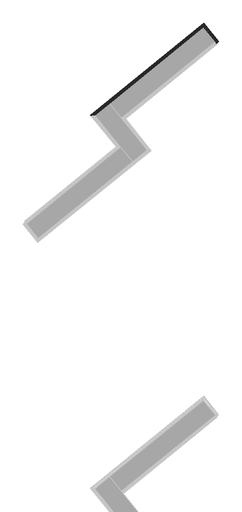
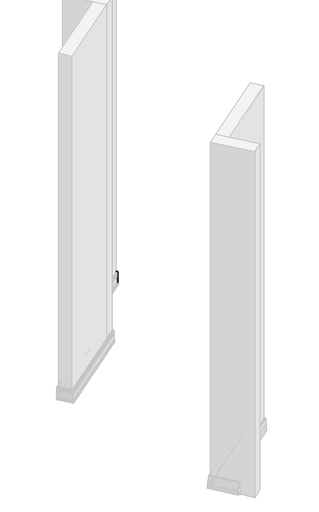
# One storey, part 21 of 21: 1 proxy.
"""IFC4 building model written with IfcOpenShell, lengths in millimetres."""

from ifc_helpers import new_model, si_unit, frame, origin, place, context, project, spatial, polyline, circle_curve, ellipse_curve, element, save
from ifc_brep_helpers import plane_surface, cylinder_surface, revolved_surface, advanced_brep

model = new_model("IFC4")

# Units and contexts
model_context = context("Model", 3, world=origin())
ifc_project = project(units=[si_unit("LENGTHUNIT", "METRE", prefix="MILLI")], contexts=[model_context])

# Site, building, storey
site = spatial("IfcSite", under=ifc_project)
building = spatial("IfcBuilding", under=site)
storey = spatial("IfcBuildingStorey", under=building, Name="Izofleks 2D View", Elevation=0.0)

# Proxy
placement = place(None, origin())
element("IfcBuildingElementProxy", 1, Name="Wall Sweeps", at=placement, inside=storey, context=model_context, shape_type="AdvancedBrep", body=[
    advanced_brep(
    [(9936.4276349, -3157.7194043, 24.6576156), (9936.4276349, -3157.7194043, 28.7655485), (9939.8717944, -3158.0814, 28.7655485), (9940.1414591, -3158.109743, 27.7479135), (9938.7780416, -3157.966442, 27.7479135), (9938.0927892, -3157.8944191, 27.1399945), (9940.841113, -3158.1832795, 18.3), (9938.5310764, -3157.9404849, 18.3), (9938.5310764, -3157.9404849, 16.99999), (9945.5630003, -3158.6795699, 16.99999), (9945.5630003, -3158.6795699, 0.0), (9947.3913925, -3158.8717417, 0.0), (9947.3913925, -3158.8717417, 54.99999), (9945.5630003, -3158.6795699, 53.99999), (9945.5630003, -3158.6795699, 47.8868905), (9941.2871374, -3158.2301586, 47.8868905), (9942.2427849, -3158.3306012, 48.3626585), (9943.4580733, -3158.4583332, 48.3626585), (9944.1540121, -3158.5314793, 48.9497419), (9941.466477, -3158.2490079, 59.2434073), (9940.4624474, -3158.1434802, 59.6555585), (9936.4416807, -3157.7208806, 59.6555585), (9936.5135729, -3157.7284368, 78.3223694), (9936.5135729, -3157.7284368, 87.2257869), (9936.4113202, -3157.7176896, 93.4495757), (9937.3850618, -3157.8200339, 98.368044), (9937.9638208, -3157.880864, 99.5828469), (9939.3514029, -3158.0267047, 101.7076691), (9941.0608063, -3158.2063702, 103.1069743), (9942.56138, -3158.3640869, 103.51129), (9942.56138, -3158.3640869, 101.4584585), (9947.4840122, -3158.8814764, 101.4584585), (9947.4840122, -3158.8814764, 102.9584585), (9944.6710795, -3158.5858252, 102.9584585), (9944.6710795, -3158.5858252, 104.9584585), (9942.2097627, -3158.3271304, 104.9964584), (9939.7484442, -3158.0684354, 104.2814568), (9937.5253722, -3157.8347811, 102.4589271), (9935.9928855, -3157.6737103, 100.1178709), (9935.1219274, -3157.5821689, 98.199675), (9934.7197822, -3157.5399017, 96.8753527), (9934.3068088, -3157.4964965, 93.606275), (9934.4038751, -3157.5066986, 87.1886584), (9934.3194873, -3157.4978291, 78.3276584), (9934.3194873, -3157.4978291, 24.6000924), (9933.8764756, -3157.4512667, 19.4344099), (9930.5434427, -3157.1009508, 12.1684838), (9925.2024362, -3156.5395884, 4.8872371), (9926.8027437, -3156.7077875, 2.9584585), (9929.1999496, -3156.959744, 2.9584585), (9929.1999496, -3156.959744, 0.4656585), (9931.0424205, -3157.1533955, 0.4656585), (9931.0424205, -3157.1533955, 4.2584585), (9929.5173824, -3156.9931075, 4.2584585), (9928.2833381, -3156.8634042, 5.7382041), (9932.4478454, -3157.3011116, 11.523042), (9935.9546857, -3157.6696953, 19.1754831), (10604.9819935, -2766.7799325, 24.6576156), (10605.2433226, -2766.5683124, 19.1754831), (10607.1810347, -2764.9991841, 11.523042), (10609.482142, -2763.1357842, 5.7382041), (10608.8002682, -2763.6879547, 4.2584585), (10607.9576051, -2764.3703298, 4.2584585), (10607.9576051, -2764.3703298, 0.4656585), (10608.9756664, -2763.54592, 0.4656585), (10608.9756664, -2763.54592, 2.9584585), (10610.3002476, -2762.4732953, 2.9584585), (10611.1845008, -2761.7572411, 4.8872371), (10608.2333164, -2764.1470632, 12.1684838), (10606.391642, -2765.6384217, 19.4344099), (10606.146855, -2765.8366463, 24.6000924), (10606.146855, -2765.8366463, 78.3276584), (10606.1002263, -2765.8744055, 87.1886584), (10606.1538605, -2765.8309733, 93.606275), (10605.9256712, -2766.0157574, 96.8753527), (10605.703465, -2766.1956965, 98.199675), (10605.2222153, -2766.5854048, 100.1178709), (10604.3754365, -2767.2711128, 102.4589271), (10603.1470733, -2768.2658216, 104.2814568), (10601.7870666, -2769.3671334, 104.9964584), (10600.4270608, -2770.4684443, 104.9584585), (10600.4270608, -2770.4684443, 102.9584585), (10598.8727689, -2771.7270851, 102.9584585), (10598.8727689, -2771.7270851, 101.4584585), (10601.5927797, -2769.5244638, 101.4584585), (10601.5927797, -2769.5244638, 103.51129), (10602.4219248, -2768.8530353, 103.1069743), (10603.3664593, -2768.0881663, 101.7076691), (10604.1331708, -2767.4672957, 99.5828469), (10604.4529653, -2767.2083312, 98.368044), (10604.9910082, -2766.7726326, 93.4495757), (10604.9345083, -2766.8183853, 87.2257869), (10604.9345083, -2766.8183853, 78.3223694), (10604.9742325, -2766.7862173, 59.6555585), (10602.7525494, -2768.5853008, 59.6555585), (10602.1977707, -2769.0345517, 59.2434073), (10600.7127675, -2770.2370836, 48.9497419), (10601.0973099, -2769.9256873, 48.3626585), (10601.7688201, -2769.3819091, 48.3626585), (10602.2968651, -2768.9543066, 47.8868905), (10599.934228, -2770.8675324, 47.8868905), (10599.934228, -2770.8675324, 53.99999), (10598.9239461, -2771.6856426, 54.99999), (10598.9239461, -2771.6856426, 0.0), (10599.934228, -2770.8675324, 0.0), (10599.934228, -2770.8675324, 16.99999), (10603.8197325, -2767.721113, 16.99999), (10603.8197325, -2767.721113, 18.3), (10602.5433169, -2768.754734, 18.3), (10604.061909, -2767.5250023, 27.1399945), (10603.6832713, -2767.831617, 27.7479135), (10602.9299121, -2768.4416753, 27.7479135), (10603.0789159, -2768.3210144, 28.7655485), (10604.9819935, -2766.7799325, 28.7655485), (10531.4032009, -2675.9176908, 24.6576156), (10531.4529099, -2675.4447416, 19.1754831), (10531.8214937, -2671.9379012, 11.523042), (10532.259201, -2667.773394, 5.7382041), (10532.1294978, -2669.0074382, 4.2584585), (10531.9692098, -2670.5324764, 4.2584585), (10531.9692098, -2670.5324764, 0.4656585), (10532.1628613, -2668.6900055, 0.4656585), (10532.1628613, -2668.6900055, 2.9584585), (10532.4148178, -2666.2927995, 2.9584585), (10532.5830169, -2664.6924921, 4.8872371), (10532.0216545, -2670.0334985, 12.1684838), (10531.6713386, -2673.3665315, 19.4344099), (10531.6247762, -2673.8095432, 24.6000924), (10531.6247762, -2673.8095432, 78.3276584), (10531.6159067, -2673.893931, 87.1886584), (10531.6261088, -2673.7968646, 93.606275), (10531.5827035, -2674.209838, 96.8753527), (10531.5404363, -2674.6119833, 98.199675), (10531.448895, -2675.4829413, 100.1178709), (10531.2878241, -2677.0154281, 102.4589271), (10531.0541698, -2679.2385001, 104.2814568), (10530.7954748, -2681.6998186, 104.9964584), (10530.53678, -2684.1611354, 104.9584585), (10530.53678, -2684.1611354, 102.9584585), (10530.2411289, -2686.9740681, 102.9584585), (10530.2411289, -2686.9740681, 101.4584585), (10530.7585184, -2682.0514358, 101.4584585), (10530.7585184, -2682.0514358, 103.51129), (10530.916235, -2680.5508622, 103.1069743), (10531.0959006, -2678.8414588, 101.7076691), (10531.2417413, -2677.4538767, 99.5828469), (10531.3025713, -2676.8751177, 98.368044), (10531.4049157, -2675.9013761, 93.4495757), (10531.3941685, -2676.0036288, 87.2257869), (10531.3941685, -2676.0036288, 78.3223694), (10531.4017247, -2675.9317366, 59.6555585), (10530.9791251, -2679.9525032, 59.6555585), (10530.8735973, -2680.9565328, 59.2434073), (10530.591126, -2683.6440679, 48.9497419), (10530.6642721, -2682.9481292, 48.3626585), (10530.7920041, -2681.7328407, 48.3626585), (10530.8924467, -2680.7771933, 47.8868905), (10530.4430354, -2685.0530562, 47.8868905), (10530.4430354, -2685.0530562, 53.99999), (10530.2508636, -2686.8814484, 54.99999), (10530.2508636, -2686.8814484, 0.0), (10593.1829027, -2764.5960445, 0.0), (10530.4430354, -2685.0530562, 0.0), (10530.4430354, -2685.0530562, 16.99999), (10531.1821203, -2678.0211323, 16.99999), (10531.1821203, -2678.0211323, 18.3), (10530.9393257, -2680.3311689, 18.3), (10531.2281862, -2677.5828451, 27.1399945), (10531.1561633, -2678.2680975, 27.7479135), (10531.0128623, -2679.631515, 27.7479135), (10531.0412052, -2679.3618502, 28.7655485), (10531.4032009, -2675.9176908, 28.7655485), (10025.1059886, -3095.9397026, 0.0)],
    [
        (0, 1),
        (1, 2),
        (2, 3),
        (3, 4),
        (4, 5, ellipse_curve(frame((9938.7794481, -3157.9665898, 27.2479135), z_axis=(-0.10452846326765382, -0.9945218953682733, 0.0), x_axis=(0.9945218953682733, -0.10452846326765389, 0.0)), 0.7071082, 0.500001)),
        (5, 6),
        (6, 7),
        (7, 8, ellipse_curve(frame((9938.7013325, -3157.9583796, 17.649995), z_axis=(-0.10452846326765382, -0.9945218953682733, 0.0), x_axis=(0.9945218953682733, -0.10452846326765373, 0.0)), 0.935051, 0.6611809)),
        (8, 9),
        (9, 10),
        (10, 11),
        (11, 12),
        (12, 13, ellipse_curve(frame((9947.0409144, -3158.8349049, 53.9789482), z_axis=(-0.10452846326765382, -0.9945218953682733, 0.0), x_axis=(0.9945218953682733, -0.10452846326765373, 0.0)), 1.4863528, 1.0510102)),
        (13, 14),
        (14, 15),
        (15, 16),
        (16, 17),
        (17, 18, ellipse_curve(frame((9943.4615184, -3158.4586953, 48.8626585), z_axis=(-0.10452846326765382, -0.9945218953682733, 0.0), x_axis=(0.9945218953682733, -0.10452846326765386, 0.0)), 0.7071153, 0.500006)),
        (18, 19),
        (19, 20, ellipse_curve(frame((9940.7167744, -3158.170211, 59.1444576), z_axis=(-0.10452846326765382, -0.9945218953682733, 0.0), x_axis=(0.9945218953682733, -0.10452846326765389, 0.0)), 0.7667105, 0.5421462)),
        (20, 21),
        (21, 22),
        (22, 23),
        (23, 24, ellipse_curve(frame((10051.5653352, -3169.8208642, 91.2936585), z_axis=(0.10452846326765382, 0.9945218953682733, 0.0), x_axis=(-0.9945218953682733, 0.10452846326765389, 0.0)), 115.8284506, 81.9030829)),
        (24, 25, ellipse_curve(frame((9960.0125167, -3160.1982753, 93.5954863), z_axis=(0.10452846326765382, 0.9945218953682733, 0.0), x_axis=(-0.9945218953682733, 0.10452846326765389, 0.0)), 23.7320956, 16.7811257)),
        (25, 26, ellipse_curve(frame((9977.7618917, -3162.0638098, 89.3206815), z_axis=(0.10452846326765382, 0.9945218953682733, 0.0), x_axis=(-0.9945218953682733, 0.10452846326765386, 0.0)), 42.5676821, 30.0998967)),
        (26, 27, ellipse_curve(frame((9960.0125167, -3160.1982753, 93.5954863), z_axis=(0.10452846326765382, 0.9945218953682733, 0.0), x_axis=(-0.9945218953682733, 0.10452846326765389, 0.0)), 23.7320956, 16.7811257)),
        (27, 28, ellipse_curve(frame((9945.30609, -3158.6525675, 99.2578162), z_axis=(0.10452846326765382, 0.9945218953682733, 0.0), x_axis=(-0.9945218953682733, 0.10452846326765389, 0.0)), 6.9176268, 4.8915008)),
        (28, 29, ellipse_curve(frame((9942.6789396, -3158.3764429, 101.680883), z_axis=(0.10452846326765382, 0.9945218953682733, 0.0), x_axis=(-0.9945218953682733, 0.10452846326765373, 0.0)), 2.5912839, 1.8323144)),
        (29, 30),
        (30, 31),
        (31, 32),
        (32, 33),
        (33, 34),
        (34, 35, ellipse_curve(frame((9943.1721651, -3158.428283, 96.1938046), z_axis=(-0.10452846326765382, -0.9945218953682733, 0.0), x_axis=(0.9945218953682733, -0.10452846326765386, 0.0)), 12.4863877, 8.8292094)),
        (35, 36, ellipse_curve(frame((9942.6789395, -3158.3764429, 101.680883), z_axis=(-0.10452846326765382, -0.9945218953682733, 0.0), x_axis=(0.9945218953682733, -0.10452846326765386, 0.0)), 4.7126043, 3.3323144)),
        (36, 37, ellipse_curve(frame((9945.30609, -3158.6525675, 99.2578162), z_axis=(-0.10452846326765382, -0.9945218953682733, 0.0), x_axis=(0.9945218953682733, -0.10452846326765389, 0.0)), 9.0389471, 6.3915008)),
        (37, 38, ellipse_curve(frame((9959.9411198, -3160.1907712, 93.6169585), z_axis=(-0.10452846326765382, -0.9945218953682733, 0.0), x_axis=(0.9945218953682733, -0.10452846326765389, 0.0)), 25.7755165, 18.2260425)),
        (38, 39, ellipse_curve(frame((9958.7313407, -3160.0636182, 93.8395846), z_axis=(-0.10452846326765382, -0.9945218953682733, 0.0), x_axis=(0.9945218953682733, -0.10452846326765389, 0.0)), 24.5271842, 17.3433382)),
        (39, 40),
        (40, 41, ellipse_curve(frame((9959.9411198, -3160.1907712, 93.6169585), z_axis=(-0.10452846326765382, -0.9945218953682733, 0.0), x_axis=(0.9945218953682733, -0.10452846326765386, 0.0)), 25.7755165, 18.2260425)),
        (41, 42, ellipse_curve(frame((10051.5653352, -3169.8208642, 91.2936584), z_axis=(-0.10452846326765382, -0.9945218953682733, 0.0), x_axis=(0.9945218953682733, -0.10452846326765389, 0.0)), 117.9497709, 83.4030829)),
        (42, 43),
        (43, 44),
        (44, 45, ellipse_curve(frame((9897.6201541, -3153.6405737, 23.5987093), z_axis=(0.10452846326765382, 0.9945218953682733, 0.0), x_axis=(-0.9945218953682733, 0.10452846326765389, 0.0)), 36.9286476, 26.1124971)),
        (45, 46, ellipse_curve(frame((9892.6755416, -3153.120874, 24.9692502), z_axis=(0.10452846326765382, 0.9945218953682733, 0.0), x_axis=(-0.9945218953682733, 0.10452846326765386, 0.0)), 42.1608608, 29.8122306)),
        (46, 47, ellipse_curve(frame((9781.2893467, -3141.4137132, 62.8834263), z_axis=(0.10452846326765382, 0.9945218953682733, 0.0), x_axis=(-0.9945218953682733, 0.10452846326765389, 0.0)), 166.3336568, 117.6156566)),
        (47, 48, ellipse_curve(frame((9926.8027437, -3156.7077875, 4.2584585), z_axis=(-0.10452846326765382, -0.9945218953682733, 0.0), x_axis=(0.9945218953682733, -0.10452846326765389, 0.0)), 1.8384776, 1.3)),
        (48, 49),
        (49, 50),
        (50, 51),
        (51, 52),
        (52, 53),
        (53, 54, ellipse_curve(frame((9929.5173824, -3156.9931075, 5.2584585), z_axis=(0.10452846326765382, 0.9945218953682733, 0.0), x_axis=(-0.9945218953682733, 0.10452846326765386, 0.0)), 1.4142136, 1.0)),
        (54, 55, ellipse_curve(frame((9781.2893467, -3141.4137132, 62.8834263), z_axis=(-0.10452846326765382, -0.9945218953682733, 0.0), x_axis=(0.9945218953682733, -0.10452846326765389, 0.0)), 168.4549771, 119.1156566)),
        (55, 56, ellipse_curve(frame((9892.6755416, -3153.120874, 24.9692502), z_axis=(-0.10452846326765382, -0.9945218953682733, 0.0), x_axis=(0.9945218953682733, -0.10452846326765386, 0.0)), 44.2821811, 31.3122306)),
        (56, 0, ellipse_curve(frame((9897.6201541, -3153.6405737, 23.5987093), z_axis=(-0.10452846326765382, -0.9945218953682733, 0.0), x_axis=(0.9945218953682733, -0.10452846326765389, 0.0)), 39.0499679, 27.6124971)),
        (57, 58, circle_curve(frame((10626.4251492, -2749.4156074, 23.5987093), z_axis=(0.6293203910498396, -0.7771459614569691, 0.0), x_axis=(-0.7765743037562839, -0.6288574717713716, 0.0383488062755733)), 27.6124971)),
        (58, 59, circle_curve(frame((10629.1573054, -2747.203151, 24.9692502), z_axis=(0.6293203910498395, -0.7771459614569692, 0.0), x_axis=(-0.7636350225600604, -0.6183794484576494, -0.18565669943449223)), 31.3122306)),
        (59, 60, circle_curve(frame((10690.7039832, -2697.363634, 62.8834263), z_axis=(0.6293203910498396, -0.7771459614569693, 0.0), x_axis=(-0.7011878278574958, -0.5678107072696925, -0.43119210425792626)), 119.1156566)),
        (60, 61, circle_curve(frame((10608.8002682, -2763.6879547, 5.2584585), z_axis=(-0.6293203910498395, 0.7771459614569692, 0.0), x_axis=(0.6818737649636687, 0.5521704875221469, 0.4797456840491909)), 1.0)),
        (61, 62),
        (62, 63),
        (63, 64),
        (64, 65),
        (65, 66),
        (66, 67, circle_curve(frame((10610.3002476, -2762.4732953, 4.2584585), z_axis=(0.6293203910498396, -0.7771459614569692, 0.0), x_axis=(-1.8485803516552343e-11, -1.4969508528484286e-11, -1.0)), 1.3)),
        (67, 68, circle_curve(frame((10690.7039832, -2697.363634, 62.8834263), z_axis=(-0.6293203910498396, 0.7771459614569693, 0.0), x_axis=(-0.6760960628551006, -0.5474917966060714, -0.49309922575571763)), 117.6156566)),
        (68, 69, circle_curve(frame((10629.1573054, -2747.203151, 24.9692502), z_axis=(-0.6293203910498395, 0.7771459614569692, 0.0), x_axis=(-0.7018592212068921, -0.568354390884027, -0.42937969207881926)), 29.8122306)),
        (69, 70, circle_curve(frame((10626.4251492, -2749.4156074, 23.5987093), z_axis=(-0.6293203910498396, 0.7771459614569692, 0.0), x_axis=(-0.7671999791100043, -0.621266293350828, -0.159475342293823)), 26.1124971)),
        (70, 71),
        (71, 72),
        (72, 73, circle_curve(frame((10541.3624134, -2818.2980527, 91.2936584), z_axis=(0.6293203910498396, -0.777145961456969, 0.0), x_axis=(0.7762040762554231, 0.628557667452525, -0.04921880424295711)), 83.4030829)),
        (73, 74, circle_curve(frame((10591.9895676, -2777.3009916, 93.6169585), z_axis=(0.6293203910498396, -0.7771459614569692, 0.0), x_axis=(0.7771458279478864, 0.629320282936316, -0.0005861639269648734)), 18.2260425)),
        (74, 75),
        (75, 76, circle_curve(frame((10592.6580337, -2776.7596784, 93.8395846), z_axis=(0.6293203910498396, -0.7771459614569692, 0.0), x_axis=(0.7635664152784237, 0.6183238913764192, 0.18612333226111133)), 17.3433382)),
        (76, 77, circle_curve(frame((10591.9895676, -2777.3009916, 93.6169585), z_axis=(0.6293203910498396, -0.7771459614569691, 0.0), x_axis=(0.7260296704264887, 0.5879272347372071, 0.3566826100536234)), 18.2260425)),
        (77, 78, circle_curve(frame((10600.0761844, -2770.7525784, 99.2578162), z_axis=(0.6293203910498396, -0.7771459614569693, 0.0), x_axis=(0.6726514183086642, 0.5447023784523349, 0.5008386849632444)), 6.3915008)),
        (78, 79, circle_curve(frame((10601.5278219, -2769.5770655, 101.680883), z_axis=(0.6293203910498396, -0.7771459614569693, 0.0), x_axis=(0.4859239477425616, 0.3934934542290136, 0.7804106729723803)), 3.3323144)),
        (79, 80, circle_curve(frame((10601.2552891, -2769.7977583, 96.1938046), z_axis=(0.6293203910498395, -0.7771459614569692, 0.0), x_axis=(0.0602293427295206, 0.04877276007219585, 0.9969922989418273)), 8.8292094)),
        (80, 81),
        (81, 82),
        (82, 83),
        (83, 84),
        (84, 85),
        (85, 86, circle_curve(frame((10601.5278219, -2769.5770656, 101.680883), z_axis=(-0.6293203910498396, 0.777145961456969, 0.0), x_axis=(0.035451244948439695, 0.028707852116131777, 0.9989589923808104)), 1.8323144)),
        (86, 87, circle_curve(frame((10600.0761844, -2770.7525784, 99.2578162), z_axis=(-0.6293203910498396, 0.7771459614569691, 0.0), x_axis=(0.4804644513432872, 0.3890724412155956, 0.7859876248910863)), 4.8915008)),
        (87, 88, circle_curve(frame((10591.9501171, -2777.3329379, 93.5954863), z_axis=(-0.6293203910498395, 0.7771459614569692, 0.0), x_axis=(0.6803084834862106, 0.5509029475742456, 0.48341111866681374)), 16.7811257)),
        (88, 89, circle_curve(frame((10582.1426624, -2785.2748582, 89.3206815), z_axis=(-0.6293203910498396, 0.7771459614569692, 0.0), x_axis=(0.7305841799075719, 0.5916154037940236, 0.34093690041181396)), 30.0998967)),
        (89, 90, circle_curve(frame((10591.9501171, -2777.3329379, 93.5954863), z_axis=(-0.6293203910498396, 0.7771459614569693, 0.0), x_axis=(0.7450541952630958, 0.6033329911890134, 0.28440033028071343)), 16.7811257)),
        (90, 91, circle_curve(frame((10541.3624134, -2818.2980527, 91.2936585), z_axis=(-0.6293203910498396, 0.7771459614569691, 0.0), x_axis=(0.776876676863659, 0.6291023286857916, 0.026322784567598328)), 81.9030829)),
        (91, 92),
        (92, 93),
        (93, 94),
        (94, 95, circle_curve(frame((10602.6120204, -2768.6990989, 59.1444576), z_axis=(0.6293203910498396, -0.7771459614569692, 0.0), x_axis=(0.7771459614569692, 0.6293203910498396, 0.0)), 0.5421462)),
        (95, 96),
        (96, 97, circle_curve(frame((10601.0954063, -2769.9272288, 48.8626585), z_axis=(0.6293203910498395, -0.7771459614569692, 0.0), x_axis=(-0.7652684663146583, -0.6197021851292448, 0.17416479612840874)), 0.500006)),
        (97, 98),
        (98, 99),
        (99, 100),
        (100, 101),
        (101, 102, circle_curve(frame((10599.1176035, -2771.528822, 53.9789482), z_axis=(0.6293203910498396, -0.777145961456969, 0.0), x_axis=(0.7769901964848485, 0.6291942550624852, 0.02002058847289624)), 1.0510102)),
        (102, 103),
        (103, 104),
        (104, 105),
        (105, 106),
        (106, 107, circle_curve(frame((10603.7256571, -2767.7972937, 17.649995), z_axis=(0.6293203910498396, -0.777145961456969, 0.0), x_axis=(0.14228387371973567, 0.11521920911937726, -0.9830970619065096)), 0.6611809)),
        (107, 108),
        (108, 109),
        (109, 110, circle_curve(frame((10603.6824942, -2767.8322463, 27.2479135), z_axis=(0.6293203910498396, -0.7771459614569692, 0.0), x_axis=(0.7589775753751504, 0.6146079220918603, -0.2149654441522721)), 0.500001)),
        (110, 111),
        (111, 112),
        (112, 113),
        (113, 57),
        (57, 114),
        (114, 115, ellipse_curve(frame((10535.4820315, -2637.11021, 23.5987093), z_axis=(0.9945218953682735, -0.10452846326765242, 0.0), x_axis=(-0.10452846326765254, -0.9945218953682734, 0.0)), 39.0499679, 27.6124971)),
        (115, 58),
        (115, 116, ellipse_curve(frame((10536.0017313, -2632.1655975, 24.9692502), z_axis=(0.9945218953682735, -0.1045284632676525, 0.0), x_axis=(-0.10452846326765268, -0.9945218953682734, 0.0)), 44.2821811, 31.3122306)),
        (116, 59),
        (116, 117, ellipse_curve(frame((10547.7088921, -2520.7794025, 62.8834263), z_axis=(0.9945218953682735, -0.1045284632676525, 0.0), x_axis=(-0.10452846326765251, -0.9945218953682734, 0.0)), 168.4549771, 119.1156566)),
        (117, 60),
        (117, 118, ellipse_curve(frame((10532.1294978, -2669.0074382, 5.2584585), z_axis=(-0.9945218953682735, 0.10452846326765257, 0.0), x_axis=(0.1045284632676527, 0.9945218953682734, 0.0)), 1.4142136, 1.0)),
        (118, 61),
        (118, 119),
        (119, 62),
        (119, 120),
        (120, 63),
        (120, 121),
        (121, 64),
        (121, 122),
        (122, 65),
        (122, 123),
        (123, 66),
        (123, 124, ellipse_curve(frame((10532.4148178, -2666.2927995, 4.2584585), z_axis=(0.9945218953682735, -0.10452846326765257, 0.0), x_axis=(-0.1045284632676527, -0.9945218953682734, 0.0)), 1.8384776, 1.3)),
        (124, 67),
        (124, 125, ellipse_curve(frame((10547.7088921, -2520.7794025, 62.8834263), z_axis=(-0.9945218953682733, 0.10452846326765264, 0.0), x_axis=(0.10452846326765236, 0.9945218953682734, 0.0)), 166.3336568, 117.6156566)),
        (125, 68),
        (125, 126, ellipse_curve(frame((10536.0017313, -2632.1655975, 24.9692502), z_axis=(-0.9945218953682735, 0.1045284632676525, 0.0), x_axis=(0.10452846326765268, 0.9945218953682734, 0.0)), 42.1608608, 29.8122306)),
        (126, 69),
        (126, 127, ellipse_curve(frame((10535.4820315, -2637.11021, 23.5987093), z_axis=(-0.9945218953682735, 0.1045284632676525, 0.0), x_axis=(0.10452846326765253, 0.9945218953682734, 0.0)), 36.9286476, 26.1124971)),
        (127, 70),
        (127, 128),
        (128, 71),
        (128, 129),
        (129, 72),
        (129, 130, ellipse_curve(frame((10519.301741, -2791.0553911, 91.2936584), z_axis=(0.9945218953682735, -0.10452846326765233, 0.0), x_axis=(-0.10452846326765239, -0.9945218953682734, 0.0)), 117.9497709, 83.4030829)),
        (130, 73),
        (130, 131, ellipse_curve(frame((10528.9318341, -2699.4311757, 93.6169585), z_axis=(0.9945218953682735, -0.10452846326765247, 0.0), x_axis=(-0.10452846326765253, -0.9945218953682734, 0.0)), 25.7755165, 18.2260425)),
        (131, 74),
        (131, 132),
        (132, 75),
        (132, 133, ellipse_curve(frame((10529.058987, -2698.2213966, 93.8395846), z_axis=(0.9945218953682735, -0.10452846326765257, 0.0), x_axis=(-0.1045284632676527, -0.9945218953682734, 0.0)), 24.5271842, 17.3433382)),
        (133, 76),
        (133, 134, ellipse_curve(frame((10528.9318341, -2699.4311757, 93.6169585), z_axis=(0.9945218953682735, -0.10452846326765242, 0.0), x_axis=(-0.10452846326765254, -0.9945218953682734, 0.0)), 25.7755165, 18.2260425)),
        (134, 77),
        (134, 135, ellipse_curve(frame((10530.4700377, -2684.7961459, 99.2578162), z_axis=(0.9945218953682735, -0.10452846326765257, 0.0), x_axis=(-0.10452846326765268, -0.9945218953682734, 0.0)), 9.0389471, 6.3915008)),
        (135, 78),
        (135, 136, ellipse_curve(frame((10530.7461624, -2682.1689954, 101.680883), z_axis=(0.9945218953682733, -0.10452846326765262, 0.0), x_axis=(-0.10452846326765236, -0.9945218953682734, 0.0)), 4.7126043, 3.3323144)),
        (136, 79),
        (136, 137, ellipse_curve(frame((10530.6943223, -2682.662221, 96.1938046), z_axis=(0.9945218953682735, -0.10452846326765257, 0.0), x_axis=(-0.1045284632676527, -0.9945218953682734, 0.0)), 12.4863877, 8.8292094)),
        (137, 80),
        (137, 138),
        (138, 81),
        (138, 139),
        (139, 82),
        (139, 140),
        (140, 83),
        (140, 141),
        (141, 84),
        (141, 142),
        (142, 85),
        (142, 143, ellipse_curve(frame((10530.7461624, -2682.1689955, 101.680883), z_axis=(-0.9945218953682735, 0.10452846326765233, 0.0), x_axis=(0.10452846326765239, 0.9945218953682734, 0.0)), 2.5912839, 1.8323144)),
        (143, 86),
        (143, 144, ellipse_curve(frame((10530.4700377, -2684.7961459, 99.2578162), z_axis=(-0.9945218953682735, 0.10452846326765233, 0.0), x_axis=(0.10452846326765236, 0.9945218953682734, 0.0)), 6.9176268, 4.8915008)),
        (144, 87),
        (144, 145, ellipse_curve(frame((10528.92433, -2699.5025726, 93.5954863), z_axis=(-0.9945218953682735, 0.1045284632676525, 0.0), x_axis=(0.10452846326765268, 0.9945218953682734, 0.0)), 23.7320956, 16.7811257)),
        (145, 88),
        (145, 146, ellipse_curve(frame((10527.0587955, -2717.2519475, 89.3206815), z_axis=(-0.9945218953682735, 0.10452846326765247, 0.0), x_axis=(0.10452846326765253, 0.9945218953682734, 0.0)), 42.5676821, 30.0998967)),
        (146, 89),
        (146, 147, ellipse_curve(frame((10528.92433, -2699.5025726, 93.5954863), z_axis=(-0.9945218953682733, 0.10452846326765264, 0.0), x_axis=(0.10452846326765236, 0.9945218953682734, 0.0)), 23.7320956, 16.7811257)),
        (147, 90),
        (147, 148, ellipse_curve(frame((10519.301741, -2791.0553911, 91.2936585), z_axis=(-0.9945218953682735, 0.10452846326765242, 0.0), x_axis=(0.10452846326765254, 0.9945218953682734, 0.0)), 115.8284506, 81.9030829)),
        (148, 91),
        (148, 149),
        (149, 92),
        (149, 150),
        (150, 93),
        (150, 151),
        (151, 94),
        (151, 152, ellipse_curve(frame((10530.9523942, -2680.2068303, 59.1444576), z_axis=(0.9945218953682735, -0.10452846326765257, 0.0), x_axis=(-0.1045284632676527, -0.9945218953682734, 0.0)), 0.7667105, 0.5421462)),
        (152, 95),
        (152, 153),
        (153, 96),
        (153, 154, ellipse_curve(frame((10530.66391, -2682.9515743, 48.8626585), z_axis=(0.9945218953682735, -0.1045284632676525, 0.0), x_axis=(-0.10452846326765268, -0.9945218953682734, 0.0)), 0.7071153, 0.500006)),
        (154, 97),
        (154, 155),
        (155, 98),
        (155, 156),
        (156, 99),
        (156, 157),
        (157, 100),
        (157, 158),
        (158, 101),
        (158, 159, ellipse_curve(frame((10530.2877003, -2686.5309703, 53.9789482), z_axis=(0.9945218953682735, -0.10452846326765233, 0.0), x_axis=(-0.10452846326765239, -0.9945218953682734, 0.0)), 1.4863528, 1.0510102)),
        (159, 102),
        (159, 160),
        (160, 161),
        (161, 103),
        (160, 162),
        (162, 104),
        (162, 163),
        (163, 105),
        (163, 164),
        (164, 106),
        (164, 165, ellipse_curve(frame((10531.1642257, -2678.1913884, 17.649995), z_axis=(0.9945218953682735, -0.10452846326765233, 0.0), x_axis=(-0.10452846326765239, -0.9945218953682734, 0.0)), 0.935051, 0.6611809)),
        (165, 107),
        (165, 166),
        (166, 108),
        (166, 167),
        (167, 109),
        (167, 168, ellipse_curve(frame((10531.1560154, -2678.2695039, 27.2479135), z_axis=(0.9945218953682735, -0.1045284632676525, 0.0), x_axis=(-0.10452846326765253, -0.9945218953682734, 0.0)), 0.7071082, 0.500001)),
        (168, 110),
        (168, 169),
        (169, 111),
        (169, 170),
        (170, 112),
        (170, 171),
        (171, 113),
        (171, 114),
        (114, 0),
        (56, 115),
        (55, 116),
        (54, 117),
        (53, 118),
        (52, 119),
        (51, 120),
        (50, 121),
        (49, 122),
        (48, 123),
        (47, 124),
        (46, 125),
        (45, 126),
        (44, 127),
        (43, 128),
        (42, 129),
        (41, 130),
        (40, 131),
        (39, 132),
        (38, 133),
        (37, 134),
        (36, 135),
        (35, 136),
        (34, 137),
        (33, 138),
        (32, 139),
        (31, 140),
        (30, 141),
        (29, 142),
        (28, 143),
        (27, 144),
        (26, 145),
        (25, 146),
        (24, 147),
        (23, 148),
        (22, 149),
        (21, 150),
        (20, 151),
        (19, 152),
        (18, 153),
        (17, 154),
        (16, 155),
        (15, 156),
        (14, 157),
        (13, 158),
        (12, 159),
        (11, 172),
        (172, 160),
        (10, 162),
        (9, 163),
        (8, 164),
        (7, 165),
        (6, 166),
        (5, 167),
        (4, 168),
        (3, 169),
        (2, 170),
        (1, 171),
    ],
    [
        plane_surface(frame((9947.3913925, -3158.8717417, -304.8), z_axis=(-0.10452846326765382, -0.9945218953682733, 0.0), x_axis=(0.9945218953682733, -0.10452846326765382, 0.0))),
        plane_surface(frame((10598.9239461, -2771.6856426, 0.0), z_axis=(0.6293203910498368, -0.7771459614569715, 0.0), x_axis=(-0.7771459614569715, -0.6293203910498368, 0.0))),
        cylinder_surface(frame((10626.4251492, -2749.4156074, 23.5987093), z_axis=(0.6293203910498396, -0.7771459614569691, 0.0), x_axis=(-0.7765743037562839, -0.6288574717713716, 0.0383488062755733)), 27.6124971),
        cylinder_surface(frame((10629.1573054, -2747.203151, 24.9692502), z_axis=(0.6293203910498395, -0.7771459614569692, 0.0), x_axis=(-0.7636350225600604, -0.6183794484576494, -0.18565669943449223)), 31.3122306),
        cylinder_surface(frame((10690.7039832, -2697.363634, 62.8834263), z_axis=(0.6293203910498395, -0.7771459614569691, 0.0), x_axis=(-0.7011878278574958, -0.5678107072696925, -0.43119210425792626)), 119.1156566),
        revolved_surface(polyline([(10532.182051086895, -2667.678121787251, 5.738204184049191), (10609.482141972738, -2763.1357842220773, 5.738204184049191)]), (10608.8002682, -2763.6879547, 5.2584585), (-0.6293203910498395, 0.7771459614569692, 0.0)),
        plane_surface(frame((10608.8002682, -2763.6879547, 4.2584585), z_axis=(0.0, 0.0, 1.0), x_axis=(-0.629320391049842, 0.7771459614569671, 0.0))),
        plane_surface(frame((10607.9576051, -2764.3703298, 4.2584585), z_axis=(-0.7771459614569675, -0.6293203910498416, 0.0), x_axis=(-0.6293203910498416, 0.7771459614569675, 0.0))),
        plane_surface(frame((10607.9576051, -2764.3703298, 0.4656585), z_axis=(0.0, 0.0, -1.0), x_axis=(-0.6293203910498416, 0.7771459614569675, 0.0))),
        plane_surface(frame((10608.9756664, -2763.54592, 0.4656585), z_axis=(0.777145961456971, 0.6293203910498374, 0.0), x_axis=(-0.6293203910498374, 0.777145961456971, 0.0))),
        plane_surface(frame((10608.9756664, -2763.54592, 2.9584585), z_axis=(0.0, 0.0, -1.0000000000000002), x_axis=(-0.6293203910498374, 0.777145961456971, 0.0))),
        cylinder_surface(frame((10610.3002476, -2762.4732953, 4.2584585), z_axis=(0.6293203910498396, -0.7771459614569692, 0.0), x_axis=(-1.8485803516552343e-11, -1.4969508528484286e-11, -1.0)), 1.3),
        revolved_surface(polyline([(10394.171478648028, -2493.7684771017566, 4.887237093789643), (10611.184500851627, -2761.7572411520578, 4.887237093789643)]), (10690.7039832, -2697.363634, 62.8834263), (-0.6293203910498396, 0.7771459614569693, 0.0)),
        revolved_surface(polyline([(10496.316297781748, -2625.941055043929, 12.168483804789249), (10608.233316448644, -2764.1470631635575, 12.168483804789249)]), (10629.1573054, -2747.203151, 24.9692502), (-0.6293203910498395, 0.7771459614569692, 0.0)),
        revolved_surface(polyline([(10499.01539738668, -2633.0398025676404, 19.434409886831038), (10606.3916419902, -2765.638421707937, 19.434409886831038)]), (10626.4251492, -2749.4156074, 23.5987093), (-0.6293203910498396, 0.7771459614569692, 0.0)),
        plane_surface(frame((10606.146855, -2765.8366463, 24.6000924), z_axis=(0.7771459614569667, 0.6293203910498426, 0.0), x_axis=(-0.6293203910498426, 0.7771459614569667, 0.0))),
        plane_surface(frame((10606.146855, -2765.8366463, 78.3276584), z_axis=(0.7771281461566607, 0.6293059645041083, 0.006771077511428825), x_axis=(-0.6293203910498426, 0.7771459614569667, 0.0))),
        cylinder_surface(frame((10541.3624134, -2818.2980527, 91.2936584), z_axis=(0.6293203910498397, -0.7771459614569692, 0.0), x_axis=(0.7762040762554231, 0.628557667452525, -0.04921880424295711)), 83.4030829),
        cylinder_surface(frame((10591.9895676, -2777.3009916, 93.6169585), z_axis=(0.6293203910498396, -0.7771459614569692, 0.0), x_axis=(0.7771458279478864, 0.629320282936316, -0.0005861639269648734)), 18.2260425),
        plane_surface(frame((10605.9256712, -2766.0157574, 96.8753527), z_axis=(0.7596424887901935, 0.6151463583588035, 0.21104086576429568), x_axis=(-0.6293203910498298, 0.7771459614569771, 0.0))),
        cylinder_surface(frame((10592.6580337, -2776.7596784, 93.8395846), z_axis=(0.6293203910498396, -0.7771459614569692, 0.0), x_axis=(0.7635664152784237, 0.6183238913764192, 0.18612333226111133)), 17.3433382),
        cylinder_surface(frame((10591.9895676, -2777.3009916, 93.6169585), z_axis=(0.6293203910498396, -0.7771459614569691, 0.0), x_axis=(0.7260296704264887, 0.5879272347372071, 0.3566826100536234)), 18.2260425),
        cylinder_surface(frame((10600.0761844, -2770.7525784, 99.2578162), z_axis=(0.6293203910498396, -0.7771459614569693, 0.0), x_axis=(0.6726514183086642, 0.5447023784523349, 0.5008386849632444)), 6.3915008),
        cylinder_surface(frame((10601.5278219, -2769.5770655, 101.680883), z_axis=(0.6293203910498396, -0.7771459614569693, 0.0), x_axis=(0.4859239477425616, 0.3934934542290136, 0.7804106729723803)), 3.3323144),
        cylinder_surface(frame((10601.2552891, -2769.7977583, 96.1938046), z_axis=(0.6293203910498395, -0.7771459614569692, 0.0), x_axis=(0.0602293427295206, 0.04877276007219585, 0.9969922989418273)), 8.8292094),
        plane_surface(frame((10600.4270608, -2770.4684443, 104.9584585), z_axis=(-0.777145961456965, -0.6293203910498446, 0.0), x_axis=(-0.6293203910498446, 0.777145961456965, 0.0))),
        plane_surface(frame((10600.4270608, -2770.4684443, 102.9584585), z_axis=(0.0, 0.0, 1.0), x_axis=(-0.6293203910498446, 0.777145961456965, 0.0))),
        plane_surface(frame((10598.8727689, -2771.7270851, 102.9584585), z_axis=(-0.7771459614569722, -0.6293203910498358, 0.0), x_axis=(-0.6293203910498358, 0.7771459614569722, 0.0))),
        plane_surface(frame((10598.8727689, -2771.7270851, 101.4584585), z_axis=(0.0, 0.0, -1.0), x_axis=(-0.6293203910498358, 0.7771459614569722, 0.0))),
        plane_surface(frame((10601.5927797, -2769.5244638, 101.4584585), z_axis=(0.7771459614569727, 0.6293203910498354, 0.0), x_axis=(-0.6293203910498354, 0.7771459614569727, 0.0))),
        revolved_surface(polyline([(10529.658007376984, -2680.692417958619, 103.51128994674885), (10601.592779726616, -2769.5244637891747, 103.51128994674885)]), (10601.5278219, -2769.5770656, 101.680883), (-0.6293203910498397, 0.7771459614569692, 0.0)),
        revolved_surface(polyline([(10529.741908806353, -2679.0915875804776, 103.10247529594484), (10602.426376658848, -2768.8494302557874, 103.10247529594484)]), (10600.0761844, -2770.7525784, 99.2578162), (-0.6293203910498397, 0.7771459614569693, 0.0)),
        revolved_surface(polyline([(10529.77996755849, -2677.2164169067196, 101.70766904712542), (10603.366459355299, -2768.088166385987, 101.70766904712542)]), (10591.9501171, -2777.3329379, 93.5954863), (-0.6293203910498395, 0.7771459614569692, 0.0)),
        revolved_surface(polyline([(10530.10682505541, -2676.0523718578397, 99.58284698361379), (10604.133170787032, -2767.4672957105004, 99.58284698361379)]), (10582.1426624, -2785.2748582, 89.3206815), (-0.6293203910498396, 0.7771459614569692, 0.0)),
        revolved_surface(polyline([(10530.866473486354, -2676.3365817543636, 98.36804399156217), (10604.452965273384, -2767.2083312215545, 98.36804399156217)]), (10591.9501171, -2777.3329379, 93.5954863), (-0.6293203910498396, 0.7771459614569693, 0.0)),
        revolved_surface(polyline([(10531.387055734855, -2675.879320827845, 93.44957570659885), (10634.473616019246, -2803.1806210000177, 93.44957570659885)]), (10541.3624134, -2818.2980527, 91.2936585), (-0.6293203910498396, 0.7771459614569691, 0.0)),
        plane_surface(frame((10604.9345083, -2766.8183853, 87.2257869), z_axis=(-0.7771459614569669, -0.6293203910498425, 0.0), x_axis=(-0.6293203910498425, 0.7771459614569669, 0.0))),
        plane_surface(frame((10604.9345083, -2766.8183853, 78.3223694), z_axis=(-0.7771430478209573, -0.6293180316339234, -0.002738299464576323), x_axis=(-0.6293203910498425, 0.7771459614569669, 0.0))),
        plane_surface(frame((10604.9742325, -2766.7862173, 59.6555585), z_axis=(0.0, 0.0, 1.0000000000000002), x_axis=(-0.6293203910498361, 0.7771459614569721, 0.0))),
        cylinder_surface(frame((10602.6120204, -2768.6990989, 59.1444576), z_axis=(0.6293203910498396, -0.7771459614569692, 0.0), x_axis=(0.7771459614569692, 0.6293203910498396, 0.0)), 0.5421462),
        plane_surface(frame((10602.1977707, -2769.0345517, 59.2434073), z_axis=(-0.7640923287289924, -0.6187497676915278, 0.18251476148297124), x_axis=(-0.629320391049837, 0.7771459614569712, 0.0))),
        cylinder_surface(frame((10601.0954063, -2769.9272288, 48.8626585), z_axis=(0.6293203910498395, -0.7771459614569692, 0.0), x_axis=(-0.7652684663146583, -0.6197021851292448, 0.17416479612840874)), 0.500006),
        plane_surface(frame((10601.0973099, -2769.9256873, 48.3626585), z_axis=(0.0, 0.0, -1.0000000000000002), x_axis=(-0.6293203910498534, 0.7771459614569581, 0.0))),
        plane_surface(frame((10601.7688201, -2769.3819091, 48.3626585), z_axis=(-0.44575261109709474, -0.36096334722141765, -0.8191520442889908), x_axis=(-0.6293203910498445, 0.7771459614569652, 0.0))),
        plane_surface(frame((10602.2968651, -2768.9543066, 47.8868905), z_axis=(0.0, 0.0, 1.0), x_axis=(-0.6293203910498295, 0.7771459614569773, 0.0))),
        plane_surface(frame((10599.934228, -2770.8675324, 47.8868905), z_axis=(0.777145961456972, 0.6293203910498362, 0.0), x_axis=(-0.6293203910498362, 0.777145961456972, 0.0))),
        cylinder_surface(frame((10599.1176035, -2771.528822, 53.9789482), z_axis=(0.6293203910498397, -0.7771459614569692, 0.0), x_axis=(0.7769901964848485, 0.6291942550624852, 0.02002058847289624)), 1.0510102),
        plane_surface(frame((10598.9239461, -2771.6856426, 54.99999), z_axis=(-0.7771459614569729, -0.6293203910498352, 0.0), x_axis=(-0.6293203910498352, 0.7771459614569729, 0.0))),
        plane_surface(frame((10598.9239461, -2771.6856426, 0.0), z_axis=(0.0, 0.0, -1.0000000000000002), x_axis=(-0.6293203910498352, 0.7771459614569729, 0.0))),
        plane_surface(frame((10599.934228, -2770.8675324, 0.0), z_axis=(0.777145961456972, 0.6293203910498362, 0.0), x_axis=(-0.6293203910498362, 0.777145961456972, 0.0))),
        plane_surface(frame((10599.934228, -2770.8675324, 16.99999), z_axis=(0.0, 0.0, -1.0000000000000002), x_axis=(-0.6293203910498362, 0.777145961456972, 0.0))),
        cylinder_surface(frame((10603.7256571, -2767.7972937, 17.649995), z_axis=(0.6293203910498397, -0.7771459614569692, 0.0), x_axis=(0.14228387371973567, 0.11521920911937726, -0.9830970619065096)), 0.6611809),
        plane_surface(frame((10603.8197325, -2767.721113, 18.3), z_axis=(0.0, 0.0, 1.0000000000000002), x_axis=(-0.6293203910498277, 0.7771459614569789, 0.0))),
        plane_surface(frame((10602.5433169, -2768.754734, 18.3), z_axis=(0.7588280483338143, 0.6144868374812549, -0.21583771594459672), x_axis=(-0.6293203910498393, 0.7771459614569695, 0.0))),
        cylinder_surface(frame((10603.6824942, -2767.8322463, 27.2479135), z_axis=(0.6293203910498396, -0.7771459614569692, 0.0), x_axis=(0.7589775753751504, 0.6146079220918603, -0.2149654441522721)), 0.500001),
        plane_surface(frame((10603.6832713, -2767.831617, 27.7479135), z_axis=(0.0, 0.0, 1.0000000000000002), x_axis=(-0.6293203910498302, 0.7771459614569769, 0.0))),
        plane_surface(frame((10602.9299121, -2768.4416753, 27.7479135), z_axis=(0.7637090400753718, 0.6184393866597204, -0.18515190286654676), x_axis=(-0.6293203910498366, 0.7771459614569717, 0.0))),
        plane_surface(frame((10603.0789159, -2768.3210144, 28.7655485), z_axis=(0.0, 0.0, -1.0), x_axis=(-0.6293203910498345, 0.7771459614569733, 0.0))),
        plane_surface(frame((10604.9819935, -2766.7799325, 28.7655485), z_axis=(-0.7771459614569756, -0.6293203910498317, 0.0), x_axis=(-0.6293203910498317, 0.7771459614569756, 0.0))),
        cylinder_surface(frame((10507.9808284, -2659.3802452, 23.5987093), z_axis=(0.7771459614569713, 0.629320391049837, 0.0), x_axis=(0.628857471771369, -0.7765743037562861, 0.0383488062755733)), 27.6124971),
        cylinder_surface(frame((10505.768372, -2656.6480891, 24.9692502), z_axis=(0.7771459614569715, 0.629320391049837, 0.0), x_axis=(0.6183794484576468, -0.7636350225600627, -0.18565669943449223)), 31.3122306),
        cylinder_surface(frame((10455.9288549, -2595.1014112, 62.8834263), z_axis=(0.7771459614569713, 0.6293203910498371, 0.0), x_axis=(0.5678107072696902, -0.7011878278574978, -0.43119210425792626)), 119.1156566),
        revolved_surface(polyline([(9928.188065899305, -3156.9405541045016, 5.738204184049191), (10532.354473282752, -2667.696244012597, 5.738204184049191)]), (10522.2531756, -2677.0051262, 5.2584585), (-0.7771459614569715, -0.6293203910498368, 0.0)),
        plane_surface(frame((10532.1294978, -2669.0074382, 4.2584585), z_axis=(0.0, 0.0, 1.0000000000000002), x_axis=(-0.7771459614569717, -0.6293203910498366, 0.0))),
        plane_surface(frame((10531.9692098, -2670.5324764, 4.2584585), z_axis=(0.629320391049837, -0.7771459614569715, 0.0), x_axis=(-0.7771459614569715, -0.629320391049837, 0.0))),
        plane_surface(frame((10531.9692098, -2670.5324764, 0.4656585), z_axis=(0.0, 0.0, -1.0000000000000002), x_axis=(-0.7771459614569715, -0.629320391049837, 0.0))),
        plane_surface(frame((10532.1628613, -2668.6900055, 0.4656585), z_axis=(-0.6293203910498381, 0.7771459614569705, 0.0), x_axis=(-0.7771459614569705, -0.6293203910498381, 0.0))),
        plane_surface(frame((10532.1628613, -2668.6900055, 2.9584585), z_axis=(0.0, 0.0, -1.0), x_axis=(-0.7771459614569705, -0.6293203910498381, 0.0))),
        cylinder_surface(frame((10521.0385163, -2675.5051469, 4.2584585), z_axis=(0.7771459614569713, 0.6293203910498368, 0.0), x_axis=(1.4969508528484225e-11, -1.8485803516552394e-11, -1.0)), 1.3),
        revolved_surface(polyline([(9754.27842121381, -3294.9511265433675, 4.8872370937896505), (10703.507031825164, -2526.2809538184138, 4.8872370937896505)]), (10455.9288549, -2595.1014112, 62.8834263), (-0.7771459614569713, -0.6293203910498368, 0.0)),
        revolved_surface(polyline([(9886.450999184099, -3192.806307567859, 12.168483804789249), (10576.114098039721, -2634.328141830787, 12.168483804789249)]), (10505.768372, -2656.6480891, 24.9692502), (-0.7771459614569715, -0.629320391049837, 0.0)),
        revolved_surface(polyline([(9893.549746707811, -3190.107207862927, 19.434409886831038), (10571.998067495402, -2640.7105903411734, 19.434409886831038)]), (10507.9808284, -2659.3802452, 23.5987093), (-0.7771459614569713, -0.629320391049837, 0.0)),
        plane_surface(frame((10531.6247762, -2673.8095432, 24.6000924), z_axis=(-0.6293203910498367, 0.7771459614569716, 0.0), x_axis=(-0.7771459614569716, -0.6293203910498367, 0.0))),
        plane_surface(frame((10531.6247762, -2673.8095432, 78.3276584), z_axis=(-0.6293059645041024, 0.7771281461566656, 0.006771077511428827), x_axis=(-0.7771459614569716, -0.6293203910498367, 0.0))),
        cylinder_surface(frame((10576.8632737, -2744.442981, 91.2936584), z_axis=(0.7771459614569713, 0.629320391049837, 0.0), x_axis=(-0.6285576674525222, 0.7762040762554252, -0.049218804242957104)), 83.4030829),
        cylinder_surface(frame((10535.8662125, -2693.8158268, 93.6169585), z_axis=(0.7771459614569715, 0.629320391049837, 0.0), x_axis=(-0.6293202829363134, 0.7771458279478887, -0.0005861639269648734)), 18.2260425),
        plane_surface(frame((10531.5827035, -2674.209838, 96.8753527), z_axis=(-0.6151463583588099, 0.7596424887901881, 0.21104086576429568), x_axis=(-0.7771459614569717, -0.6293203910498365, 0.0))),
        cylinder_surface(frame((10535.3248994, -2693.1473608, 93.8395846), z_axis=(0.7771459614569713, 0.6293203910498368, 0.0), x_axis=(-0.6183238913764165, 0.7635664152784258, 0.1861233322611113)), 17.3433382),
        cylinder_surface(frame((10535.8662125, -2693.8158268, 93.6169585), z_axis=(0.7771459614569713, 0.629320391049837, 0.0), x_axis=(-0.5879272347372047, 0.7260296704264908, 0.3566826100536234)), 18.2260425),
        cylinder_surface(frame((10529.3177994, -2685.72921, 99.2578162), z_axis=(0.7771459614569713, 0.629320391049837, 0.0), x_axis=(-0.5447023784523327, 0.672651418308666, 0.5008386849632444)), 6.3915008),
        cylinder_surface(frame((10528.1422865, -2684.2775725, 101.680883), z_axis=(0.7771459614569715, 0.6293203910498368, 0.0), x_axis=(-0.393493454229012, 0.485923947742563, 0.7804106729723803)), 3.3323144),
        cylinder_surface(frame((10528.3629792, -2684.5501053, 96.1938046), z_axis=(0.7771459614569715, 0.6293203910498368, 0.0), x_axis=(-0.04877276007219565, 0.06022934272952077, 0.9969922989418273)), 8.8292094),
        plane_surface(frame((10530.53678, -2684.1611354, 104.9584585), z_axis=(0.6293203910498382, -0.7771459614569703, 0.0), x_axis=(-0.7771459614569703, -0.6293203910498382, 0.0))),
        plane_surface(frame((10530.53678, -2684.1611354, 102.9584585), z_axis=(0.0, 0.0, 1.0), x_axis=(-0.7771459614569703, -0.6293203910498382, 0.0))),
        plane_surface(frame((10530.2411289, -2686.9740681, 102.9584585), z_axis=(0.6293203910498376, -0.7771459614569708, 0.0), x_axis=(-0.7771459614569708, -0.6293203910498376, 0.0))),
        plane_surface(frame((10530.2411289, -2686.9740681, 101.4584585), z_axis=(0.0, 0.0, -1.0), x_axis=(-0.7771459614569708, -0.6293203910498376, 0.0))),
        plane_surface(frame((10530.7585184, -2682.0514358, 101.4584585), z_axis=(-0.6293203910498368, 0.7771459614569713, 0.0), x_axis=(-0.7771459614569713, -0.6293203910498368, 0.0))),
        revolved_surface(polyline([(9941.20236201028, -3159.4645978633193, 103.51128994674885), (10532.117536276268, -2680.9509247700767, 103.51128994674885)]), (10528.1422865, -2684.2775725, 101.680883), (-0.7771459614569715, -0.6293203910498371, 0.0)),
        revolved_surface(polyline([(9939.60153172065, -3159.3806964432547, 103.10247529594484), (10532.368299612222, -2679.367632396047, 103.10247529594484)]), (10529.3177994, -2685.72921, 99.2578162), (-0.7771459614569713, -0.6293203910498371, 0.0)),
        revolved_surface(polyline([(9937.726360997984, -3159.3426377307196, 101.70766904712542), (10532.720942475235, -2677.525525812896, 101.70766904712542)]), (10535.8981589, -2693.8552773, 93.5954863), (-0.7771459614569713, -0.629320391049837, 0.0)),
        revolved_surface(polyline([(9936.562315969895, -3159.0157801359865, 99.58284698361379), (10532.643246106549, -2676.3189604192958, 99.58284698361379)]), (10543.8400791, -2703.662732, 89.3206815), (-0.7771459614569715, -0.629320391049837, 0.0)),
        revolved_surface(polyline([(9936.846525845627, -3158.256131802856, 98.36804399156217), (10531.841107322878, -2676.4390198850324, 98.36804399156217)]), (10535.8981589, -2693.8552773, 93.5954863), (-0.7771459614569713, -0.6293203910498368, 0.0)),
        revolved_surface(polyline([(9936.389264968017, -3157.735549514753, 93.44957570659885), (10531.426970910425, -2675.883516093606, 93.44957570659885)]), (10576.8632737, -2744.442981, 91.2936585), (-0.7771459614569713, -0.629320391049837, 0.0)),
        plane_surface(frame((10531.3941685, -2676.0036288, 87.2257869), z_axis=(0.6293203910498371, -0.7771459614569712, 0.0), x_axis=(-0.7771459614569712, -0.6293203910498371, 0.0))),
        plane_surface(frame((10531.3941685, -2676.0036288, 78.3223694), z_axis=(0.629318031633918, -0.7771430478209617, -0.002738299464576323), x_axis=(-0.7771459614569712, -0.6293203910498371, 0.0))),
        plane_surface(frame((10531.4017247, -2675.9317366, 59.6555585), z_axis=(0.0, 0.0, 1.0), x_axis=(-0.7771459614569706, -0.629320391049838, 0.0))),
        cylinder_surface(frame((10527.2643199, -2683.193374, 59.1444576), z_axis=(0.7771459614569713, 0.6293203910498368, 0.0), x_axis=(-0.6293203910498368, 0.7771459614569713, 0.0)), 0.5421462),
        plane_surface(frame((10530.8735973, -2680.9565328, 59.2434073), z_axis=(0.6187497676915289, -0.7640923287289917, 0.18251476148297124), x_axis=(-0.7771459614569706, -0.629320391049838, 0.0))),
        cylinder_surface(frame((10528.4924498, -2684.7099881, 48.8626585), z_axis=(0.7771459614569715, 0.629320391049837, 0.0), x_axis=(0.6197021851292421, -0.7652684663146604, 0.1741647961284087)), 0.500006),
        plane_surface(frame((10530.6642721, -2682.9481292, 48.3626585), z_axis=(0.0, 0.0, -1.0000000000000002), x_axis=(-0.7771459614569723, -0.6293203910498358, 0.0))),
        plane_surface(frame((10530.7920041, -2681.7328407, 48.3626585), z_axis=(0.3609633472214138, -0.4457526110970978, -0.8191520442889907), x_axis=(-0.7771459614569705, -0.629320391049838, 0.0))),
        plane_surface(frame((10530.8924467, -2680.7771933, 47.8868905), z_axis=(0.0, 0.0, 1.0), x_axis=(-0.7771459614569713, -0.6293203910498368, 0.0))),
        plane_surface(frame((10530.4430354, -2685.0530562, 47.8868905), z_axis=(-0.6293203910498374, 0.7771459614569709, 0.0), x_axis=(-0.7771459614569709, -0.6293203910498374, 0.0))),
        cylinder_surface(frame((10530.0940429, -2686.687791, 53.9789482), z_axis=(0.7771459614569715, 0.6293203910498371, 0.0), x_axis=(-0.6291942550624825, 0.7769901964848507, 0.02002058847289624)), 1.0510102),
        plane_surface(frame((10530.2508636, -2686.8814484, 54.99999), z_axis=(0.6293203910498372, -0.7771459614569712, 0.0), x_axis=(-0.7771459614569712, -0.6293203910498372, 0.0))),
        plane_surface(frame((10530.2508636, -2686.8814484, 0.0), z_axis=(0.0, 0.0, -1.0000000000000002), x_axis=(-0.7771459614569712, -0.6293203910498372, 0.0))),
        plane_surface(frame((10530.4430354, -2685.0530562, 0.0), z_axis=(-0.6293203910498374, 0.7771459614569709, 0.0), x_axis=(-0.7771459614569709, -0.6293203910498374, 0.0))),
        plane_surface(frame((10530.4430354, -2685.0530562, 16.99999), z_axis=(0.0, 0.0, -1.0), x_axis=(-0.7771459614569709, -0.6293203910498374, 0.0))),
        cylinder_surface(frame((10526.3625147, -2682.0797373, 17.649995), z_axis=(0.7771459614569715, 0.6293203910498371, 0.0), x_axis=(-0.11521920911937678, 0.14228387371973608, -0.9830970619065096)), 0.6611809),
        plane_surface(frame((10531.1821203, -2678.0211323, 18.3), z_axis=(0.0, 0.0, 1.0000000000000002), x_axis=(-0.7771459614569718, -0.6293203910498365, 0.0))),
        plane_surface(frame((10530.9393257, -2680.3311689, 18.3), z_axis=(-0.6144868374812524, 0.7588280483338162, -0.21583771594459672), x_axis=(-0.7771459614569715, -0.6293203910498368, 0.0))),
        cylinder_surface(frame((10526.3974673, -2682.1229002, 27.2479135), z_axis=(0.7771459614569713, 0.629320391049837, 0.0), x_axis=(-0.6146079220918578, 0.7589775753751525, -0.2149654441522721)), 0.500001),
        plane_surface(frame((10531.1561633, -2678.2680975, 27.7479135), z_axis=(0.0, 0.0, 1.0), x_axis=(-0.7771459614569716, -0.6293203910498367, 0.0))),
        plane_surface(frame((10531.0128623, -2679.631515, 27.7479135), z_axis=(-0.6184393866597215, 0.7637090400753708, -0.18515190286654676), x_axis=(-0.7771459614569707, -0.6293203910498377, 0.0))),
        plane_surface(frame((10531.0412052, -2679.3618502, 28.7655485), z_axis=(0.0, 0.0, -1.0000000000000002), x_axis=(-0.777145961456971, -0.6293203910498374, 0.0))),
        plane_surface(frame((10531.4032009, -2675.9176908, 28.7655485), z_axis=(0.6293203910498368, -0.7771459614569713, 0.0), x_axis=(-0.7771459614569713, -0.6293203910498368, 0.0))),
    ],
    [
        (0, [[1, 2, 3, 4, 5, 6, 7, 8, 9, 10, 11, 12, 13, 14, 15, 16, 17, 18, 19, 20, 21, 22, 23, 24, 25, 26, 27, 28, 29, 30, 31, 32, 33, 34, 35, 36, 37, 38, 39, 40, 41, 42, 43, 44, 45, 46, 47, 48, 49, 50, 51, 52, 53, 54, 55, 56, 57]]),
        (1, [[58, 59, 60, 61, 62, 63, 64, 65, 66, 67, 68, 69, 70, 71, 72, 73, 74, 75, 76, 77, 78, 79, 80, 81, 82, 83, 84, 85, 86, 87, 88, 89, 90, 91, 92, 93, 94, 95, 96, 97, 98, 99, 100, 101, 102, 103, 104, 105, 106, 107, 108, 109, 110, 111, 112, 113, 114]]),
        (2, [[-58, 115, 116, 117]]),
        (3, [[-59, -117, 118, 119]]),
        (4, [[-60, -119, 120, 121]]),
        (5, [[-61, -121, 122, 123]]),
        (6, [[-62, -123, 124, 125]]),
        (7, [[-63, -125, 126, 127]]),
        (8, [[-64, -127, 128, 129]]),
        (9, [[-65, -129, 130, 131]]),
        (10, [[-66, -131, 132, 133]]),
        (11, [[-67, -133, 134, 135]]),
        (12, [[-68, -135, 136, 137]]),
        (13, [[-69, -137, 138, 139]]),
        (14, [[-70, -139, 140, 141]]),
        (15, [[-71, -141, 142, 143]]),
        (16, [[-72, -143, 144, 145]]),
        (17, [[-73, -145, 146, 147]]),
        (18, [[-74, -147, 148, 149]]),
        (19, [[-75, -149, 150, 151]]),
        (20, [[-76, -151, 152, 153]]),
        (21, [[-77, -153, 154, 155]]),
        (22, [[-78, -155, 156, 157]]),
        (23, [[-79, -157, 158, 159]]),
        (24, [[-80, -159, 160, 161]]),
        (25, [[-81, -161, 162, 163]]),
        (26, [[-82, -163, 164, 165]]),
        (27, [[-83, -165, 166, 167]]),
        (28, [[-84, -167, 168, 169]]),
        (29, [[-85, -169, 170, 171]]),
        (30, [[-86, -171, 172, 173]]),
        (31, [[-87, -173, 174, 175]]),
        (32, [[-88, -175, 176, 177]]),
        (33, [[-89, -177, 178, 179]]),
        (34, [[-90, -179, 180, 181]]),
        (35, [[-91, -181, 182, 183]]),
        (36, [[-92, -183, 184, 185]]),
        (37, [[-93, -185, 186, 187]]),
        (38, [[-94, -187, 188, 189]]),
        (39, [[-95, -189, 190, 191]]),
        (40, [[-96, -191, 192, 193]]),
        (41, [[-97, -193, 194, 195]]),
        (42, [[-98, -195, 196, 197]]),
        (43, [[-99, -197, 198, 199]]),
        (44, [[-100, -199, 200, 201]]),
        (45, [[-101, -201, 202, 203]]),
        (46, [[-102, -203, 204, 205]]),
        (47, [[-103, -205, 206, 207, 208]]),
        (48, [[-104, -208, -207, 209, 210]]),
        (49, [[-105, -210, 211, 212]]),
        (50, [[-106, -212, 213, 214]]),
        (51, [[-107, -214, 215, 216]]),
        (52, [[-108, -216, 217, 218]]),
        (53, [[-109, -218, 219, 220]]),
        (54, [[-110, -220, 221, 222]]),
        (55, [[-111, -222, 223, 224]]),
        (56, [[-112, -224, 225, 226]]),
        (57, [[-113, -226, 227, 228]]),
        (58, [[-114, -228, 229, -115]]),
        (59, [[-116, 230, -57, 231]]),
        (60, [[-118, -231, -56, 232]]),
        (61, [[-120, -232, -55, 233]]),
        (62, [[-122, -233, -54, 234]]),
        (63, [[-124, -234, -53, 235]]),
        (64, [[-126, -235, -52, 236]]),
        (65, [[-128, -236, -51, 237]]),
        (66, [[-130, -237, -50, 238]]),
        (67, [[-132, -238, -49, 239]]),
        (68, [[-134, -239, -48, 240]]),
        (69, [[-136, -240, -47, 241]]),
        (70, [[-138, -241, -46, 242]]),
        (71, [[-140, -242, -45, 243]]),
        (72, [[-142, -243, -44, 244]]),
        (73, [[-144, -244, -43, 245]]),
        (74, [[-146, -245, -42, 246]]),
        (75, [[-148, -246, -41, 247]]),
        (76, [[-150, -247, -40, 248]]),
        (77, [[-152, -248, -39, 249]]),
        (78, [[-154, -249, -38, 250]]),
        (79, [[-156, -250, -37, 251]]),
        (80, [[-158, -251, -36, 252]]),
        (81, [[-160, -252, -35, 253]]),
        (82, [[-162, -253, -34, 254]]),
        (83, [[-164, -254, -33, 255]]),
        (84, [[-166, -255, -32, 256]]),
        (85, [[-168, -256, -31, 257]]),
        (86, [[-170, -257, -30, 258]]),
        (87, [[-172, -258, -29, 259]]),
        (88, [[-174, -259, -28, 260]]),
        (89, [[-176, -260, -27, 261]]),
        (90, [[-178, -261, -26, 262]]),
        (91, [[-180, -262, -25, 263]]),
        (92, [[-182, -263, -24, 264]]),
        (93, [[-184, -264, -23, 265]]),
        (94, [[-186, -265, -22, 266]]),
        (95, [[-188, -266, -21, 267]]),
        (96, [[-190, -267, -20, 268]]),
        (97, [[-192, -268, -19, 269]]),
        (98, [[-194, -269, -18, 270]]),
        (99, [[-196, -270, -17, 271]]),
        (100, [[-198, -271, -16, 272]]),
        (101, [[-200, -272, -15, 273]]),
        (102, [[-202, -273, -14, 274]]),
        (103, [[-204, -274, -13, 275]]),
        (104, [[-206, -275, -12, 276, 277]]),
        (105, [[-209, -277, -276, -11, 278]]),
        (106, [[-211, -278, -10, 279]]),
        (107, [[-213, -279, -9, 280]]),
        (108, [[-215, -280, -8, 281]]),
        (109, [[-217, -281, -7, 282]]),
        (110, [[-219, -282, -6, 283]]),
        (111, [[-221, -283, -5, 284]]),
        (112, [[-223, -284, -4, 285]]),
        (113, [[-225, -285, -3, 286]]),
        (114, [[-227, -286, -2, 287]]),
        (115, [[-229, -287, -1, -230]]),
    ],
),
])

save(model, "model.ifc")
